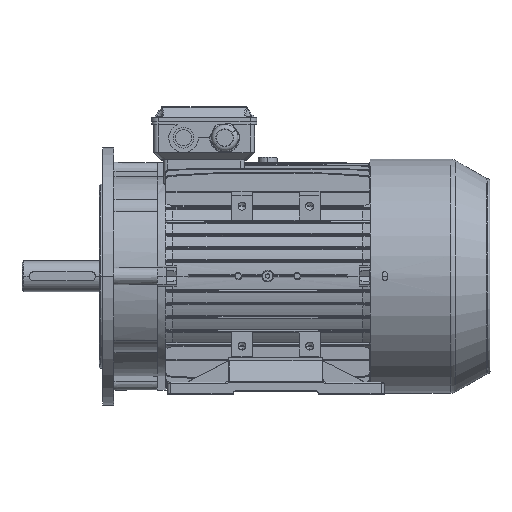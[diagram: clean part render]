
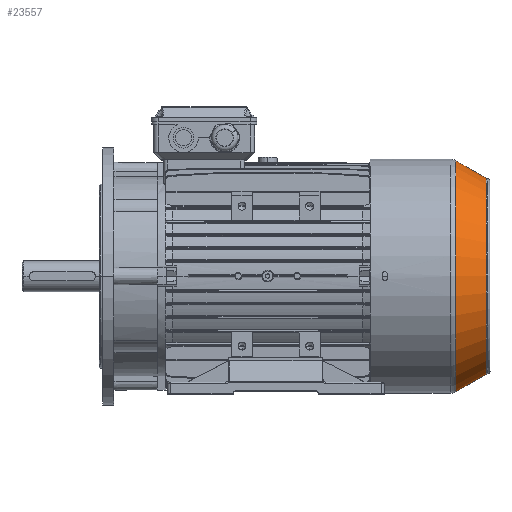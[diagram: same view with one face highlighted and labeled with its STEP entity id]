
A CAD part, top view. The second image highlights one B-rep face of the part: STEP entity #23557.
In plain terms, the highlighted conical face has half-angle 30 degrees and reference radius 156.99 mm.
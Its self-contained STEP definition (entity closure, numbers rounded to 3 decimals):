
#586 = ORIENTED_EDGE ( 'NONE', *, *, #46500, .F. ) ;
#12832 = EDGE_CURVE ( 'NONE', #137277, #109355, #86382, .T. ) ;
#13815 = DIRECTION ( 'NONE',  ( 0., 1., 0. ) ) ;
#23557 = ADVANCED_FACE ( 'NONE', ( #190762 ), #32070, .T. ) ;
#28693 = EDGE_CURVE ( 'NONE', #109355, #147919, #158050, .T. ) ;
#32070 = CONICAL_SURFACE ( 'NONE', #185002, 156.99, 0.524 ) ;
#35614 = EDGE_LOOP ( 'NONE', ( #586, #149902, #76503, #212806 ) ) ;
#36785 = DIRECTION ( 'NONE',  ( 1., 0., 0. ) ) ;
#40241 = VERTEX_POINT ( 'NONE', #113465 ) ;
#40523 = DIRECTION ( 'NONE',  ( 0.866, 0.5, 0. ) ) ;
#46500 = EDGE_CURVE ( 'NONE', #40241, #147919, #134565, .T. ) ;
#59162 = AXIS2_PLACEMENT_3D ( 'NONE', #138597, #115707, #92829 ) ;
#59731 = CARTESIAN_POINT ( 'NONE',  ( -116.481, 0., 0. ) ) ;
#63454 = CARTESIAN_POINT ( 'NONE',  ( -116.481, 156.99, 0. ) ) ;
#65995 = DIRECTION ( 'NONE',  ( 0., -1., 0. ) ) ;
#72256 = CARTESIAN_POINT ( 'NONE',  ( -116.481, -156.99, 0. ) ) ;
#76503 = ORIENTED_EDGE ( 'NONE', *, *, #12832, .T. ) ;
#86382 = LINE ( 'NONE', #63454, #216069 ) ;
#88769 = DIRECTION ( 'NONE',  ( 0.866, -0.5, 0. ) ) ;
#88943 = DIRECTION ( 'NONE',  ( -1., 0., 0. ) ) ;
#92829 = DIRECTION ( 'NONE',  ( 0., -1., 0. ) ) ;
#109355 = VERTEX_POINT ( 'NONE', #142720 ) ;
#111692 = CARTESIAN_POINT ( 'NONE',  ( -116.481, -156.99, 0. ) ) ;
#111866 = CARTESIAN_POINT ( 'NONE',  ( -116.481, 0., 0. ) ) ;
#113465 = CARTESIAN_POINT ( 'NONE',  ( -158.209, -132.899, 0. ) ) ;
#115707 = DIRECTION ( 'NONE',  ( -1., 0., 0. ) ) ;
#134565 = LINE ( 'NONE', #111692, #186892 ) ;
#137277 = VERTEX_POINT ( 'NONE', #175794 ) ;
#138597 = CARTESIAN_POINT ( 'NONE',  ( -158.209, 0., 0. ) ) ;
#142720 = CARTESIAN_POINT ( 'NONE',  ( -116.481, 156.99, 0. ) ) ;
#147919 = VERTEX_POINT ( 'NONE', #72256 ) ;
#149902 = ORIENTED_EDGE ( 'NONE', *, *, #183634, .F. ) ;
#158050 = CIRCLE ( 'NONE', #192911, 156.99 ) ;
#162035 = CIRCLE ( 'NONE', #59162, 132.899 ) ;
#175794 = CARTESIAN_POINT ( 'NONE',  ( -158.209, 132.899, 0. ) ) ;
#183634 = EDGE_CURVE ( 'NONE', #137277, #40241, #162035, .T. ) ;
#185002 = AXIS2_PLACEMENT_3D ( 'NONE', #59731, #36785, #13815 ) ;
#186892 = VECTOR ( 'NONE', #88769, 1000. ) ;
#190762 = FACE_OUTER_BOUND ( 'NONE', #35614, .T. ) ;
#192911 = AXIS2_PLACEMENT_3D ( 'NONE', #111866, #88943, #65995 ) ;
#212806 = ORIENTED_EDGE ( 'NONE', *, *, #28693, .T. ) ;
#216069 = VECTOR ( 'NONE', #40523, 1000. ) ;
